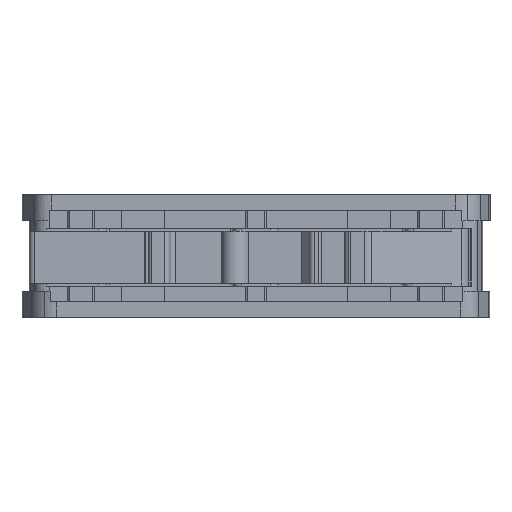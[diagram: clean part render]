
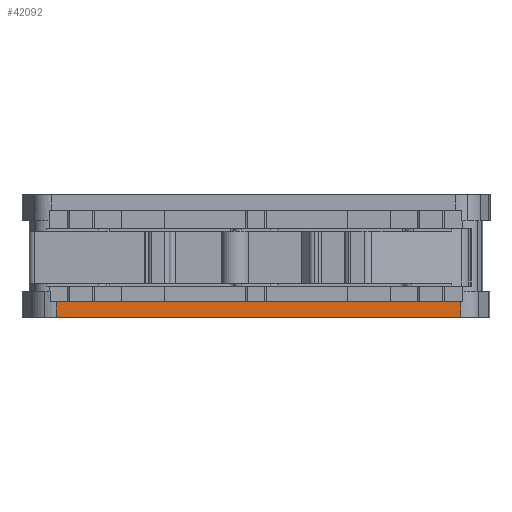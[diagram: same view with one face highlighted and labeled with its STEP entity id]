
A CAD part, front view. The second image highlights one B-rep face of the part: STEP entity #42092.
In plain terms, the highlighted planar face has unit normal (0, -1, 0).
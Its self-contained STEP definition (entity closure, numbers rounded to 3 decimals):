
#30114 = PLANE('',#30115);
#30115 = AXIS2_PLACEMENT_3D('',#30116,#30117,#30118);
#30116 = CARTESIAN_POINT('',(28.448,16.172,
    3.));
#30117 = DIRECTION('',(0.,0.,1.));
#30118 = DIRECTION('',(1.,0.,0.));
#30280 = PLANE('',#30281);
#30281 = AXIS2_PLACEMENT_3D('',#30282,#30283,#30284);
#30282 = CARTESIAN_POINT('',(-80.508,41.028,
    0.));
#30283 = DIRECTION('',(0.,0.,1.));
#30284 = DIRECTION('',(-1.,0.,0.));
#31042 = CYLINDRICAL_SURFACE('',#31043,3.6);
#31043 = AXIS2_PLACEMENT_3D('',#31044,#31045,#31046);
#31044 = CARTESIAN_POINT('',(39.242,12.1,
    5.));
#31045 = DIRECTION('',(0.,0.,1.));
#31046 = DIRECTION('',(1.,0.,0.));
#32722 = VERTEX_POINT('',#32723);
#32723 = CARTESIAN_POINT('',(39.242,8.5,
    3.));
#32747 = EDGE_CURVE('',#32748,#32722,#32750,.T.);
#32748 = VERTEX_POINT('',#32749);
#32749 = CARTESIAN_POINT('',(39.242,8.5,
    0.));
#32750 = SURFACE_CURVE('',#32751,(#32755,#32762),.PCURVE_S1.);
#32751 = LINE('',#32752,#32753);
#32752 = CARTESIAN_POINT('',(39.242,8.5,
    5.));
#32753 = VECTOR('',#32754,1.);
#32754 = DIRECTION('',(0.,0.,1.));
#32755 = PCURVE('',#31042,#32756);
#32756 = DEFINITIONAL_REPRESENTATION('',(#32757),#32761);
#32757 = LINE('',#32758,#32759);
#32758 = CARTESIAN_POINT('',(4.712,0.));
#32759 = VECTOR('',#32760,1.);
#32760 = DIRECTION('',(0.,1.));
#32761 = ( GEOMETRIC_REPRESENTATION_CONTEXT(2) 
PARAMETRIC_REPRESENTATION_CONTEXT() REPRESENTATION_CONTEXT('2D SPACE',''
  ) );
#32762 = PCURVE('',#32763,#32768);
#32763 = PLANE('',#32764);
#32764 = AXIS2_PLACEMENT_3D('',#32765,#32766,#32767);
#32765 = CARTESIAN_POINT('',(-45.899,8.5,
    -0.5));
#32766 = DIRECTION('',(0.,1.,0.));
#32767 = DIRECTION('',(1.,0.,0.));
#32768 = DEFINITIONAL_REPRESENTATION('',(#32769),#32773);
#32769 = LINE('',#32770,#32771);
#32770 = CARTESIAN_POINT('',(85.14,-5.5));
#32771 = VECTOR('',#32772,1.);
#32772 = DIRECTION('',(0.,-1.));
#32773 = ( GEOMETRIC_REPRESENTATION_CONTEXT(2) 
PARAMETRIC_REPRESENTATION_CONTEXT() REPRESENTATION_CONTEXT('2D SPACE',''
  ) );
#35483 = B_SPLINE_SURFACE_WITH_KNOTS('',3,3,(
    (#35484,#35485,#35486,#35487)
    ,(#35488,#35489,#35490,#35491)
    ,(#35492,#35493,#35494,#35495)
    ,(#35496,#35497,#35498,#35499)
    ,(#35500,#35501,#35502,#35503)
    ,(#35504,#35505,#35506,#35507
    )),.UNSPECIFIED.,.F.,.F.,.F.,(4,2,4),(4,4),(0.,122.283,
    244.565),(0.,1.),.UNSPECIFIED.);
#35484 = CARTESIAN_POINT('',(-38.261,8.5,
    124.783));
#35485 = CARTESIAN_POINT('',(-39.027,8.5,
    124.783));
#35486 = CARTESIAN_POINT('',(-39.792,8.679,
    124.783));
#35487 = CARTESIAN_POINT('',(-40.478,9.018,
    124.783));
#35488 = CARTESIAN_POINT('',(-38.261,8.5,84.022
    ));
#35489 = CARTESIAN_POINT('',(-39.027,8.5,84.022)
  );
#35490 = CARTESIAN_POINT('',(-39.792,8.679,84.022
    ));
#35491 = CARTESIAN_POINT('',(-40.478,9.018,84.022
    ));
#35492 = CARTESIAN_POINT('',(-38.261,8.5,
    43.261));
#35493 = CARTESIAN_POINT('',(-39.027,8.5,
    43.261));
#35494 = CARTESIAN_POINT('',(-39.792,8.679,
    43.261));
#35495 = CARTESIAN_POINT('',(-40.478,9.018,
    43.261));
#35496 = CARTESIAN_POINT('',(-38.261,8.5,
    -38.261));
#35497 = CARTESIAN_POINT('',(-39.027,8.5,
    -38.261));
#35498 = CARTESIAN_POINT('',(-39.792,8.679,
    -38.261));
#35499 = CARTESIAN_POINT('',(-40.478,9.018,
    -38.261));
#35500 = CARTESIAN_POINT('',(-38.261,8.5,
    -79.022));
#35501 = CARTESIAN_POINT('',(-39.027,8.5,
    -79.022));
#35502 = CARTESIAN_POINT('',(-39.792,8.679,
    -79.022));
#35503 = CARTESIAN_POINT('',(-40.478,9.018,
    -79.022));
#35504 = CARTESIAN_POINT('',(-38.261,8.5,
    -119.783));
#35505 = CARTESIAN_POINT('',(-39.027,8.5,
    -119.783));
#35506 = CARTESIAN_POINT('',(-39.792,8.679,
    -119.783));
#35507 = CARTESIAN_POINT('',(-40.478,9.018,
    -119.783));
#40347 = VERTEX_POINT('',#40348);
#40348 = CARTESIAN_POINT('',(-38.261,8.5,
    3.));
#40411 = EDGE_CURVE('',#40347,#32722,#40412,.T.);
#40412 = SURFACE_CURVE('',#40413,(#40417,#40424),.PCURVE_S1.);
#40413 = LINE('',#40414,#40415);
#40414 = CARTESIAN_POINT('',(30.892,8.5,
    3.));
#40415 = VECTOR('',#40416,1.);
#40416 = DIRECTION('',(1.,0.,0.));
#40417 = PCURVE('',#30114,#40418);
#40418 = DEFINITIONAL_REPRESENTATION('',(#40419),#40423);
#40419 = LINE('',#40420,#40421);
#40420 = CARTESIAN_POINT('',(2.444,-7.672));
#40421 = VECTOR('',#40422,1.);
#40422 = DIRECTION('',(1.,0.));
#40423 = ( GEOMETRIC_REPRESENTATION_CONTEXT(2) 
PARAMETRIC_REPRESENTATION_CONTEXT() REPRESENTATION_CONTEXT('2D SPACE',''
  ) );
#40424 = PCURVE('',#32763,#40425);
#40425 = DEFINITIONAL_REPRESENTATION('',(#40426),#40430);
#40426 = LINE('',#40427,#40428);
#40427 = CARTESIAN_POINT('',(76.791,-3.5));
#40428 = VECTOR('',#40429,1.);
#40429 = DIRECTION('',(1.,0.));
#40430 = ( GEOMETRIC_REPRESENTATION_CONTEXT(2) 
PARAMETRIC_REPRESENTATION_CONTEXT() REPRESENTATION_CONTEXT('2D SPACE',''
  ) );
#41667 = VERTEX_POINT('',#41668);
#41668 = CARTESIAN_POINT('',(-38.261,8.5,
    0.));
#41833 = EDGE_CURVE('',#40347,#41667,#41834,.T.);
#41834 = SURFACE_CURVE('',#41835,(#41842,#41849),.PCURVE_S1.);
#41835 = B_SPLINE_CURVE_WITH_KNOTS('',3,(#41836,#41837,#41838,#41839,
    #41840,#41841),.UNSPECIFIED.,.F.,.F.,(4,2,4),(116.783,
    122.283,129.783),.UNSPECIFIED.);
#41836 = CARTESIAN_POINT('',(-38.261,8.5,
    8.));
#41837 = CARTESIAN_POINT('',(-38.261,8.5,
    6.167));
#41838 = CARTESIAN_POINT('',(-38.261,8.5,
    4.333));
#41839 = CARTESIAN_POINT('',(-38.261,8.5,
    0.));
#41840 = CARTESIAN_POINT('',(-38.261,8.5,
    -2.5));
#41841 = CARTESIAN_POINT('',(-38.261,8.5,
    -5.));
#41842 = PCURVE('',#35483,#41843);
#41843 = DEFINITIONAL_REPRESENTATION('',(#41844),#41848);
#41844 = LINE('',#41845,#41846);
#41845 = CARTESIAN_POINT('',(0.,0.));
#41846 = VECTOR('',#41847,1.);
#41847 = DIRECTION('',(1.,0.));
#41848 = ( GEOMETRIC_REPRESENTATION_CONTEXT(2) 
PARAMETRIC_REPRESENTATION_CONTEXT() REPRESENTATION_CONTEXT('2D SPACE',''
  ) );
#41849 = PCURVE('',#32763,#41850);
#41850 = DEFINITIONAL_REPRESENTATION('',(#41851),#41858);
#41851 = B_SPLINE_CURVE_WITH_KNOTS('',3,(#41852,#41853,#41854,#41855,
    #41856,#41857),.UNSPECIFIED.,.F.,.F.,(4,2,4),(116.783,
    122.283,129.783),.UNSPECIFIED.);
#41852 = CARTESIAN_POINT('',(7.637,-8.5));
#41853 = CARTESIAN_POINT('',(7.637,-6.667));
#41854 = CARTESIAN_POINT('',(7.637,-4.833));
#41855 = CARTESIAN_POINT('',(7.637,-0.5));
#41856 = CARTESIAN_POINT('',(7.637,2.));
#41857 = CARTESIAN_POINT('',(7.637,4.5));
#41858 = ( GEOMETRIC_REPRESENTATION_CONTEXT(2) 
PARAMETRIC_REPRESENTATION_CONTEXT() REPRESENTATION_CONTEXT('2D SPACE',''
  ) );
#42092 = ADVANCED_FACE('',(#42093),#32763,.F.);
#42093 = FACE_BOUND('',#42094,.T.);
#42094 = EDGE_LOOP('',(#42095,#42096,#42097,#42118));
#42095 = ORIENTED_EDGE('',*,*,#40411,.F.);
#42096 = ORIENTED_EDGE('',*,*,#41833,.T.);
#42097 = ORIENTED_EDGE('',*,*,#42098,.T.);
#42098 = EDGE_CURVE('',#41667,#32748,#42099,.T.);
#42099 = SURFACE_CURVE('',#42100,(#42104,#42111),.PCURVE_S1.);
#42100 = LINE('',#42101,#42102);
#42101 = CARTESIAN_POINT('',(30.892,8.5,
    0.));
#42102 = VECTOR('',#42103,1.);
#42103 = DIRECTION('',(1.,0.,0.));
#42104 = PCURVE('',#32763,#42105);
#42105 = DEFINITIONAL_REPRESENTATION('',(#42106),#42110);
#42106 = LINE('',#42107,#42108);
#42107 = CARTESIAN_POINT('',(76.791,-0.5));
#42108 = VECTOR('',#42109,1.);
#42109 = DIRECTION('',(1.,0.));
#42110 = ( GEOMETRIC_REPRESENTATION_CONTEXT(2) 
PARAMETRIC_REPRESENTATION_CONTEXT() REPRESENTATION_CONTEXT('2D SPACE',''
  ) );
#42111 = PCURVE('',#30280,#42112);
#42112 = DEFINITIONAL_REPRESENTATION('',(#42113),#42117);
#42113 = LINE('',#42114,#42115);
#42114 = CARTESIAN_POINT('',(-111.4,32.528));
#42115 = VECTOR('',#42116,1.);
#42116 = DIRECTION('',(-1.,0.));
#42117 = ( GEOMETRIC_REPRESENTATION_CONTEXT(2) 
PARAMETRIC_REPRESENTATION_CONTEXT() REPRESENTATION_CONTEXT('2D SPACE',''
  ) );
#42118 = ORIENTED_EDGE('',*,*,#32747,.T.);
